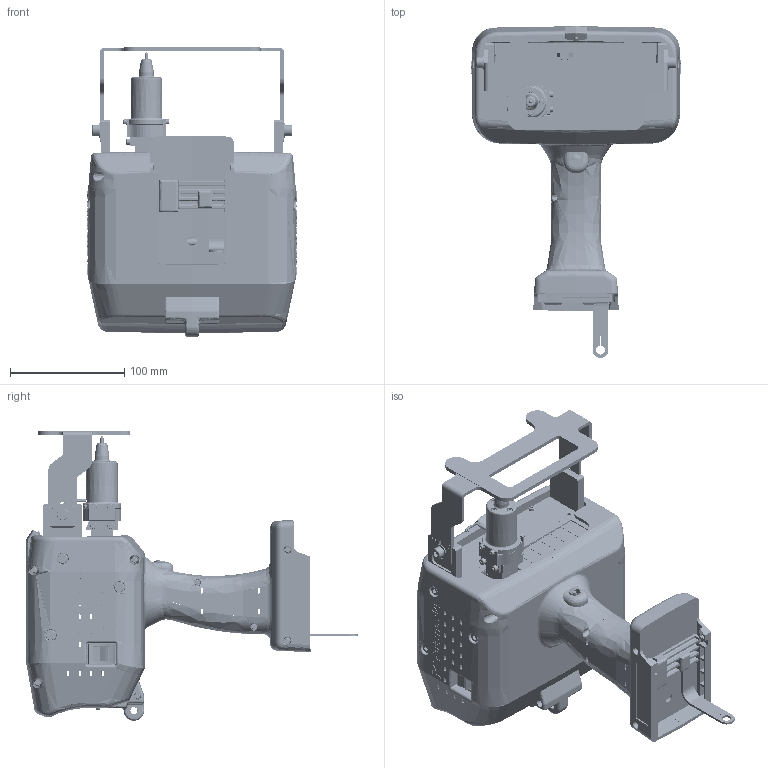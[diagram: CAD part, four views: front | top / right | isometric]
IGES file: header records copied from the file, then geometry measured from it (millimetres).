
Start section: SolidWorks IGES file using analytic representation for surfaces
Bounding box: 183.6 x 290.9 x 254 mm (x, y, z)
Surface area: 520864.1 mm2 (no closed solid volume)
Topology: 0 solids, 0 shells, 5667 faces, 67996 edges, 67894 vertices
Faces by surface type: bspline 3454, revolution 2213
